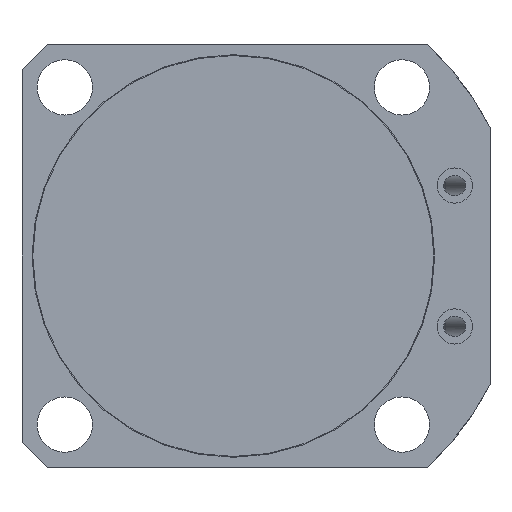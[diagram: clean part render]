
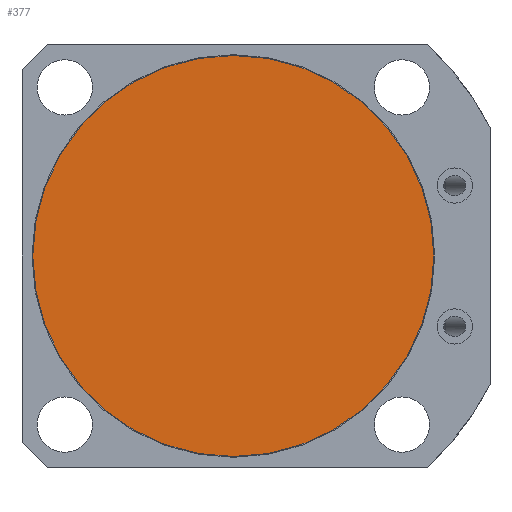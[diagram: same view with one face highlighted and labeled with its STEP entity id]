
A CAD part, front view. The second image highlights one B-rep face of the part: STEP entity #377.
In plain terms, the highlighted planar face has unit normal (0, -1, 0).
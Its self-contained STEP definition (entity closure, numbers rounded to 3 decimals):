
#377 = ADVANCED_FACE( '', ( #723 ), #724, .T. );
#723 = FACE_OUTER_BOUND( '', #1375, .T. );
#724 = PLANE( '', #1376 );
#1375 = EDGE_LOOP( '', ( #2285 ) );
#1376 = AXIS2_PLACEMENT_3D( '', #2286, #2287, #2288 );
#2285 = ORIENTED_EDGE( '', *, *, #4188, .T. );
#2286 = CARTESIAN_POINT( '', ( 0., -70., 0. ) );
#2287 = DIRECTION( '', ( 0., -1., 0. ) );
#2288 = DIRECTION( '', ( 1., 0., 0. ) );
#4188 = EDGE_CURVE( '', #4976, #4976, #4977, .T. );
#4976 = VERTEX_POINT( '', #6389 );
#4977 = CIRCLE( '', #6390, 39.85 );
#6389 = CARTESIAN_POINT( '', ( -39.85, -70., 0. ) );
#6390 = AXIS2_PLACEMENT_3D( '', #7798, #7799, #7800 );
#7798 = CARTESIAN_POINT( '', ( 0., -70., 0. ) );
#7799 = DIRECTION( '', ( 0., -1., 0. ) );
#7800 = DIRECTION( '', ( -1., 0., 0. ) );
